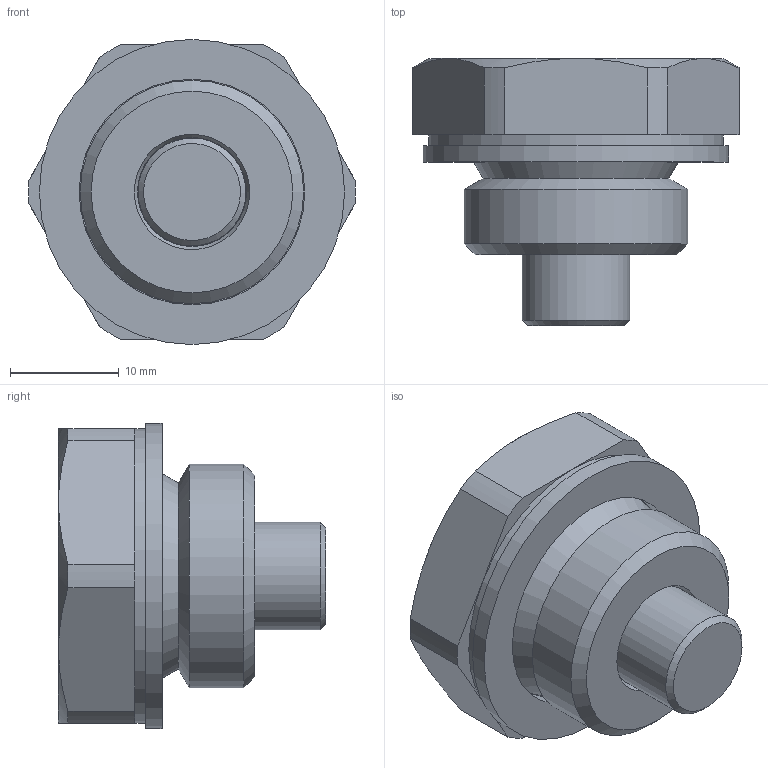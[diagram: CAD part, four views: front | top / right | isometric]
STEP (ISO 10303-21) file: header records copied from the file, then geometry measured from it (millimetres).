
FILE_DESCRIPTION(/* description */ (''),/* implementation_level */ '2;1');
FILE_NAME(/* name */ 'W:\ARCHIVIO UFFICIO TECNICO\ARTICOLI DI PRODUZIONE\COMPLESSIVI ARTICOLI STANDARD\TMA\TMA_12.stp',/* time_stamp */ '2023-09-28T10:46:43+02:00',/* author */ ('tecnico'),/* organization */ (''),/* preprocessor_version */ 'ST-DEVELOPER v18',/* originating_system */ 'Autodesk Inventor 2020',/* authorisation */ '');
FILE_SCHEMA (('AUTOMOTIVE_DESIGN { 1 0 10303 214 3 1 1 }'));
Length unit declared in the file: millimetre
Products named in the file (1): TMA_12
Bounding box: 30 x 24.5 x 28 mm (x, y, z)
Volume: 8909 mm3; surface area: 3570.4 mm2
Topology: 1 solids, 1 shells, 38 faces, 92 edges, 60 vertices
Faces by surface type: plane 18, cylinder 12, cone 8
Full cylindrical faces by diameter (mm): 9.9 x1, 10 x1, 20.5 x1, 20.7 x1, 27 x1, 28 x1
Entity records: 1232 total; most frequent: DIRECTION 212, CARTESIAN_POINT 203, ORIENTED_EDGE 184, EDGE_CURVE 92, AXIS2_PLACEMENT_3D 87, VERTEX_POINT 60, CIRCLE 48, EDGE_LOOP 42
